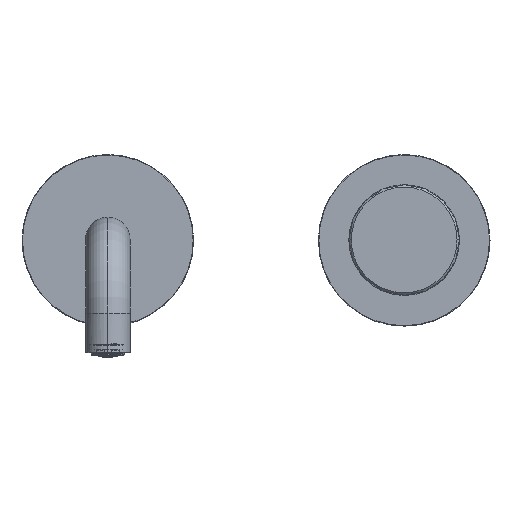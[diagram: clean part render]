
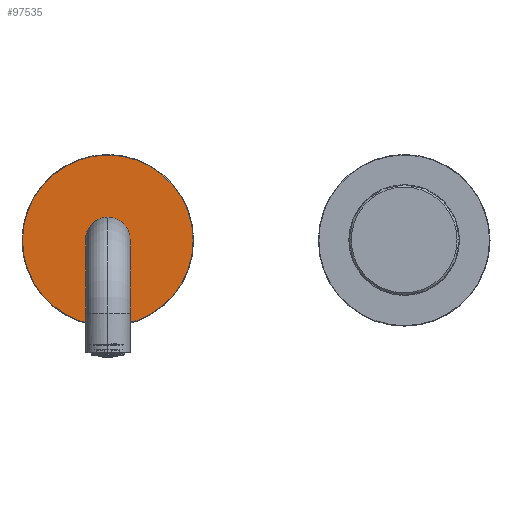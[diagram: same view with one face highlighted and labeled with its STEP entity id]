
A CAD part, top view. The second image highlights one B-rep face of the part: STEP entity #97535.
In plain terms, the highlighted planar face has unit normal (0, 0, 1).
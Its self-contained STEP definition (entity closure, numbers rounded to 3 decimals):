
#39095=CARTESIAN_POINT('',(-120.,0.,0.));
#39096=DIRECTION('',(0.,0.,1.));
#39097=DIRECTION('',(1.,0.,0.));
#39098=AXIS2_PLACEMENT_3D('',#39095,#39096,#39097);
#39100=CARTESIAN_POINT('',(-120.,0.,0.));
#39101=DIRECTION('',(0.,0.,1.));
#39102=DIRECTION('',(-1.,0.,0.));
#39103=AXIS2_PLACEMENT_3D('',#39100,#39101,#39102);
#39110=CARTESIAN_POINT('',(-120.,0.,0.));
#39111=DIRECTION('',(0.,0.,1.));
#39112=DIRECTION('',(0.,1.,0.));
#39113=AXIS2_PLACEMENT_3D('',#39110,#39111,#39112);
#39119=CARTESIAN_POINT('',(-120.,0.,0.));
#39120=DIRECTION('',(0.,0.,1.));
#39121=DIRECTION('',(0.,-1.,0.));
#39122=AXIS2_PLACEMENT_3D('',#39119,#39120,#39121);
#54018=CARTESIAN_POINT('',(-85.45,0.,0.));
#54019=CARTESIAN_POINT('',(-154.55,0.,0.));
#54020=VERTEX_POINT('',#54018);
#54021=VERTEX_POINT('',#54019);
#54058=CARTESIAN_POINT('',(-120.,8.8,0.));
#54059=CARTESIAN_POINT('',(-120.,-8.8,0.));
#54060=VERTEX_POINT('',#54058);
#54061=VERTEX_POINT('',#54059);
#97519=CARTESIAN_POINT('',(-120.,0.,0.));
#97520=DIRECTION('',(0.,0.,-1.));
#97521=DIRECTION('',(-1.,0.,0.));
#97522=AXIS2_PLACEMENT_3D('',#97519,#97520,#97521);
#97523=PLANE('',#97522);
#97524=ORIENTED_EDGE('',*,*,#97509,.F.);
#97526=ORIENTED_EDGE('',*,*,#97525,.F.);
#97527=EDGE_LOOP('',(#97524,#97526));
#97528=FACE_OUTER_BOUND('',#97527,.F.);
#97530=ORIENTED_EDGE('',*,*,#97529,.T.);
#97532=ORIENTED_EDGE('',*,*,#97531,.T.);
#97533=EDGE_LOOP('',(#97530,#97532));
#97534=FACE_BOUND('',#97533,.F.);
#97535=ADVANCED_FACE('',(#97528,#97534),#97523,.F.);
#39099=CIRCLE('',#39098,34.55);
#39104=CIRCLE('',#39103,34.55);
#39114=CIRCLE('',#39113,8.8);
#39123=CIRCLE('',#39122,8.8);
#97509=EDGE_CURVE('',#54020,#54021,#39099,.T.);
#97525=EDGE_CURVE('',#54021,#54020,#39104,.T.);
#97529=EDGE_CURVE('',#54060,#54061,#39114,.T.);
#97531=EDGE_CURVE('',#54061,#54060,#39123,.T.);
